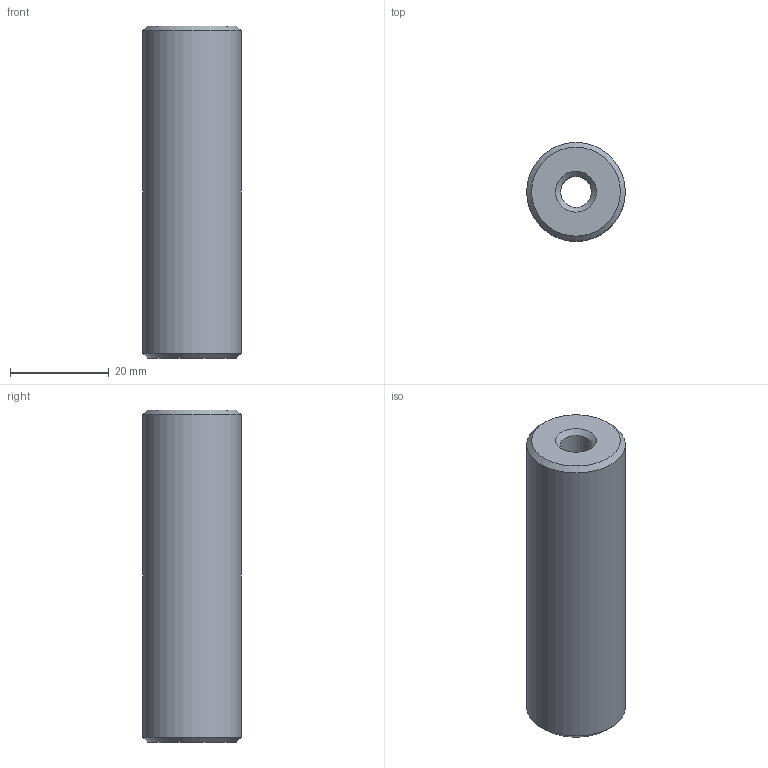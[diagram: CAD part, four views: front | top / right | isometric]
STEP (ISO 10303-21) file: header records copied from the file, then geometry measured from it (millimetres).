
FILE_DESCRIPTION(('Mechanical CAD reference from nasji.com'),'2;1');
FILE_NAME('NASJI.step','',(''),(''),'','NASJI distribution','');
FILE_SCHEMA(('AUTOMOTIVE_DESIGN { 1 0 10303 214 1 1 1 1 }'));
Length unit declared in the file: millimetre
Products named in the file (1): Open CASCADE STEP translator 7.8 117
Bounding box: 20 x 20 x 67.3 mm (x, y, z)
Volume: 18962.4 mm3; surface area: 6029.8 mm2
Topology: 1 solids, 1 shells, 8 faces, 14 edges, 8 vertices
Faces by surface type: cone 4, plane 2, cylinder 2
Full cylindrical faces by diameter (mm): 6.3 x1, 20 x1
Entity records: 382 total; most frequent: CARTESIAN_POINT 67, DIRECTION 60, ORIENTED_EDGE 28, PCURVE 28, DEFINITIONAL_REPRESENTATION 28, LINE 22, VECTOR 22, AXIS2_PLACEMENT_3D 17
